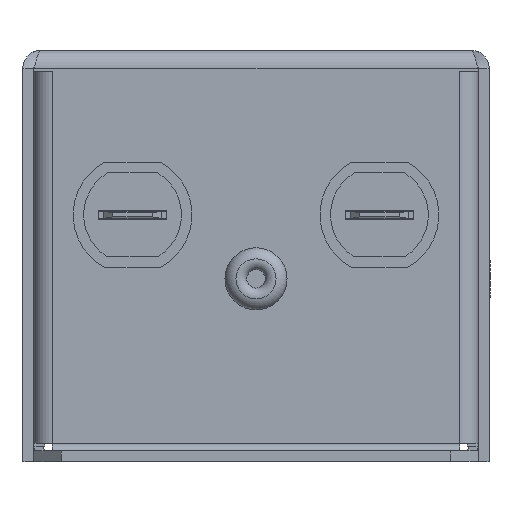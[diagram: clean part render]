
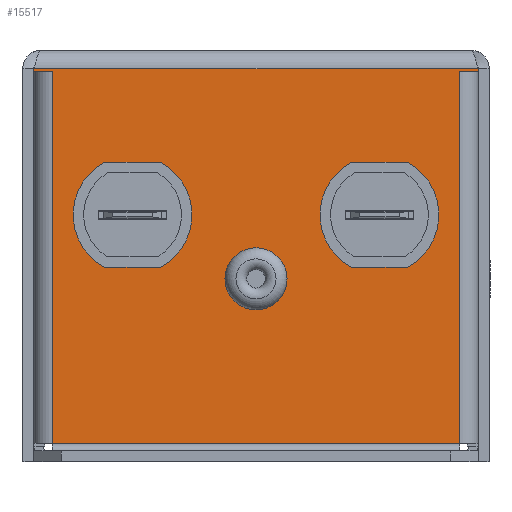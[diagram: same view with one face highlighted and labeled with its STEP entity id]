
A CAD part, left-side view. The second image highlights one B-rep face of the part: STEP entity #15517.
In plain terms, the highlighted planar face has unit normal (-1, 0, 0).
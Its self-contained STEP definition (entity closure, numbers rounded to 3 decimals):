
#1637=FACE_BOUND('',#3113,.T.);
#1638=FACE_BOUND('',#3114,.T.);
#1639=FACE_BOUND('',#3115,.T.);
#2185=FACE_OUTER_BOUND('',#3112,.T.);
#3112=EDGE_LOOP('',(#12085,#12086,#12087,#12088,#12089,#12090,#12091,#12092,
#12093,#12094,#12095,#12096));
#3113=EDGE_LOOP('',(#12097,#12098,#12099,#12100));
#3114=EDGE_LOOP('',(#12101));
#3115=EDGE_LOOP('',(#12102,#12103,#12104,#12105));
#4420=LINE('',#25493,#5658);
#4424=LINE('',#25504,#5662);
#4426=LINE('',#25526,#5664);
#4427=LINE('',#25528,#5665);
#4428=LINE('',#25530,#5666);
#4429=LINE('',#25532,#5667);
#4430=LINE('',#25534,#5668);
#4431=LINE('',#25536,#5669);
#4432=LINE('',#25538,#5670);
#4433=LINE('',#25540,#5671);
#4434=LINE('',#25542,#5672);
#4435=LINE('',#25544,#5673);
#4436=LINE('',#25546,#5674);
#4437=LINE('',#25547,#5675);
#4438=LINE('',#25552,#5676);
#4439=LINE('',#25555,#5677);
#5658=VECTOR('',#19228,10.);
#5662=VECTOR('',#19240,10.);
#5664=VECTOR('',#19278,10.);
#5665=VECTOR('',#19279,10.);
#5666=VECTOR('',#19280,10.);
#5667=VECTOR('',#19281,10.);
#5668=VECTOR('',#19282,10.);
#5669=VECTOR('',#19283,10.);
#5670=VECTOR('',#19284,10.);
#5671=VECTOR('',#19285,10.);
#5672=VECTOR('',#19286,10.);
#5673=VECTOR('',#19287,10.);
#5674=VECTOR('',#19288,10.);
#5675=VECTOR('',#19289,10.);
#5676=VECTOR('',#19292,10.);
#5677=VECTOR('',#19295,10.);
#6596=CIRCLE('',#16688,6.5);
#6598=CIRCLE('',#16692,6.5);
#6608=CIRCLE('',#16713,6.5);
#6609=CIRCLE('',#16714,6.5);
#6610=CIRCLE('',#16715,3.4);
#7483=VERTEX_POINT('',#25483);
#7484=VERTEX_POINT('',#25484);
#7487=VERTEX_POINT('',#25492);
#7489=VERTEX_POINT('',#25498);
#7491=VERTEX_POINT('',#25524);
#7492=VERTEX_POINT('',#25525);
#7493=VERTEX_POINT('',#25527);
#7494=VERTEX_POINT('',#25529);
#7495=VERTEX_POINT('',#25531);
#7496=VERTEX_POINT('',#25533);
#7497=VERTEX_POINT('',#25535);
#7498=VERTEX_POINT('',#25537);
#7499=VERTEX_POINT('',#25539);
#7500=VERTEX_POINT('',#25541);
#7501=VERTEX_POINT('',#25543);
#7502=VERTEX_POINT('',#25545);
#7503=VERTEX_POINT('',#25548);
#7504=VERTEX_POINT('',#25549);
#7505=VERTEX_POINT('',#25551);
#7506=VERTEX_POINT('',#25553);
#7507=VERTEX_POINT('',#25556);
#9178=EDGE_CURVE('',#7483,#7484,#6596,.T.);
#9182=EDGE_CURVE('',#7484,#7487,#4420,.T.);
#9185=EDGE_CURVE('',#7487,#7489,#6598,.T.);
#9188=EDGE_CURVE('',#7489,#7483,#4424,.T.);
#9198=EDGE_CURVE('',#7491,#7492,#4426,.T.);
#9199=EDGE_CURVE('',#7493,#7491,#4427,.T.);
#9200=EDGE_CURVE('',#7493,#7494,#4428,.T.);
#9201=EDGE_CURVE('',#7494,#7495,#4429,.T.);
#9202=EDGE_CURVE('',#7495,#7496,#4430,.T.);
#9203=EDGE_CURVE('',#7496,#7497,#4431,.T.);
#9204=EDGE_CURVE('',#7497,#7498,#4432,.T.);
#9205=EDGE_CURVE('',#7498,#7499,#4433,.T.);
#9206=EDGE_CURVE('',#7500,#7499,#4434,.T.);
#9207=EDGE_CURVE('',#7501,#7500,#4435,.T.);
#9208=EDGE_CURVE('',#7502,#7501,#4436,.T.);
#9209=EDGE_CURVE('',#7492,#7502,#4437,.T.);
#9210=EDGE_CURVE('',#7503,#7504,#6608,.T.);
#9211=EDGE_CURVE('',#7504,#7505,#4438,.T.);
#9212=EDGE_CURVE('',#7505,#7506,#6609,.T.);
#9213=EDGE_CURVE('',#7506,#7503,#4439,.T.);
#9214=EDGE_CURVE('',#7507,#7507,#6610,.T.);
#12085=ORIENTED_EDGE('',*,*,#9198,.F.);
#12086=ORIENTED_EDGE('',*,*,#9199,.F.);
#12087=ORIENTED_EDGE('',*,*,#9200,.T.);
#12088=ORIENTED_EDGE('',*,*,#9201,.T.);
#12089=ORIENTED_EDGE('',*,*,#9202,.T.);
#12090=ORIENTED_EDGE('',*,*,#9203,.T.);
#12091=ORIENTED_EDGE('',*,*,#9204,.T.);
#12092=ORIENTED_EDGE('',*,*,#9205,.T.);
#12093=ORIENTED_EDGE('',*,*,#9206,.F.);
#12094=ORIENTED_EDGE('',*,*,#9207,.F.);
#12095=ORIENTED_EDGE('',*,*,#9208,.F.);
#12096=ORIENTED_EDGE('',*,*,#9209,.F.);
#12097=ORIENTED_EDGE('',*,*,#9210,.T.);
#12098=ORIENTED_EDGE('',*,*,#9211,.T.);
#12099=ORIENTED_EDGE('',*,*,#9212,.T.);
#12100=ORIENTED_EDGE('',*,*,#9213,.T.);
#12101=ORIENTED_EDGE('',*,*,#9214,.T.);
#12102=ORIENTED_EDGE('',*,*,#9178,.T.);
#12103=ORIENTED_EDGE('',*,*,#9182,.T.);
#12104=ORIENTED_EDGE('',*,*,#9185,.T.);
#12105=ORIENTED_EDGE('',*,*,#9188,.T.);
#14926=PLANE('',#16712);
#15517=ADVANCED_FACE('',(#2185,#1637,#1638,#1639),#14926,.F.);
#16688=AXIS2_PLACEMENT_3D('',#25485,#19220,#19221);
#16692=AXIS2_PLACEMENT_3D('',#25499,#19233,#19234);
#16712=AXIS2_PLACEMENT_3D('',#25523,#19276,#19277);
#16713=AXIS2_PLACEMENT_3D('',#25550,#19290,#19291);
#16714=AXIS2_PLACEMENT_3D('',#25554,#19293,#19294);
#16715=AXIS2_PLACEMENT_3D('',#25557,#19296,#19297);
#19220=DIRECTION('center_axis',(1.,0.,0.));
#19221=DIRECTION('ref_axis',(0.,0.466,0.885));
#19228=DIRECTION('',(0.,-1.,0.));
#19233=DIRECTION('center_axis',(1.,0.,0.));
#19234=DIRECTION('ref_axis',(0.,-0.466,-0.885));
#19240=DIRECTION('',(0.,1.,0.));
#19276=DIRECTION('center_axis',(1.,0.,0.));
#19277=DIRECTION('ref_axis',(0.,0.,-1.));
#19278=DIRECTION('',(0.,1.,0.));
#19279=DIRECTION('',(0.,0.,-1.));
#19280=DIRECTION('',(0.,1.,0.));
#19281=DIRECTION('',(0.,0.,-1.));
#19282=DIRECTION('',(0.,-1.,0.));
#19283=DIRECTION('',(0.,0.,-1.));
#19284=DIRECTION('',(0.,1.,0.));
#19285=DIRECTION('',(0.,0.,-1.));
#19286=DIRECTION('',(0.,1.,0.));
#19287=DIRECTION('',(0.,0.,-1.));
#19288=DIRECTION('',(0.,-1.,0.));
#19289=DIRECTION('',(0.,0.,-1.));
#19290=DIRECTION('center_axis',(1.,0.,0.));
#19291=DIRECTION('ref_axis',(0.,0.466,0.885));
#19292=DIRECTION('',(0.,-1.,0.));
#19293=DIRECTION('center_axis',(1.,0.,0.));
#19294=DIRECTION('ref_axis',(0.,-0.466,-0.885));
#19295=DIRECTION('',(0.,1.,0.));
#19296=DIRECTION('center_axis',(1.,0.,0.));
#19297=DIRECTION('ref_axis',(0.,0.,1.));
#25483=CARTESIAN_POINT('',(-99.75,2.281,-22.55));
#25484=CARTESIAN_POINT('',(-99.75,2.281,-11.05));
#25485=CARTESIAN_POINT('Origin',(-99.75,-0.75,-16.8));
#25492=CARTESIAN_POINT('',(-99.75,-3.781,-11.05));
#25493=CARTESIAN_POINT('',(-99.75,-5.234,-11.05));
#25498=CARTESIAN_POINT('',(-99.75,-3.781,-22.55));
#25499=CARTESIAN_POINT('Origin',(-99.75,-0.75,-16.8));
#25504=CARTESIAN_POINT('',(-99.75,-8.266,-22.55));
#25523=CARTESIAN_POINT('Origin',(-99.75,-12.75,-43.8));
#25524=CARTESIAN_POINT('',(-99.75,-11.543,-1.09));
#25525=CARTESIAN_POINT('',(-99.75,-9.533,-1.09));
#25526=CARTESIAN_POINT('',(-99.75,-12.146,-1.09));
#25527=CARTESIAN_POINT('',(-99.75,-11.543,-0.8));
#25528=CARTESIAN_POINT('',(-99.75,-11.543,-22.3));
#25529=CARTESIAN_POINT('',(-99.75,37.043,-0.8));
#25530=CARTESIAN_POINT('',(-99.75,12.75,-0.8));
#25531=CARTESIAN_POINT('',(-99.75,37.043,-1.09));
#25532=CARTESIAN_POINT('',(-99.75,37.043,-22.3));
#25533=CARTESIAN_POINT('',(-99.75,35.033,-1.09));
#25534=CARTESIAN_POINT('',(-99.75,37.646,-1.09));
#25535=CARTESIAN_POINT('',(-99.75,35.033,-1.1));
#25536=CARTESIAN_POINT('',(-99.75,35.033,-22.445));
#25537=CARTESIAN_POINT('',(-99.75,35.043,-1.1));
#25538=CARTESIAN_POINT('',(-99.75,36.641,-1.1));
#25539=CARTESIAN_POINT('',(-99.75,35.043,-41.8));
#25540=CARTESIAN_POINT('',(-99.75,35.043,-42.8));
#25541=CARTESIAN_POINT('',(-99.75,-9.543,-41.8));
#25542=CARTESIAN_POINT('',(-99.75,-12.146,-41.8));
#25543=CARTESIAN_POINT('',(-99.75,-9.543,-1.1));
#25544=CARTESIAN_POINT('',(-99.75,-9.543,-42.8));
#25545=CARTESIAN_POINT('',(-99.75,-9.533,-1.1));
#25546=CARTESIAN_POINT('',(-99.75,-11.141,-1.1));
#25547=CARTESIAN_POINT('',(-99.75,-9.533,-22.445));
#25548=CARTESIAN_POINT('',(-99.75,29.281,-22.55));
#25549=CARTESIAN_POINT('',(-99.75,29.281,-11.05));
#25550=CARTESIAN_POINT('Origin',(-99.75,26.25,-16.8));
#25551=CARTESIAN_POINT('',(-99.75,23.219,-11.05));
#25552=CARTESIAN_POINT('',(-99.75,8.266,-11.05));
#25553=CARTESIAN_POINT('',(-99.75,23.219,-22.55));
#25554=CARTESIAN_POINT('Origin',(-99.75,26.25,-16.8));
#25555=CARTESIAN_POINT('',(-99.75,5.234,-22.55));
#25556=CARTESIAN_POINT('',(-99.75,9.35,-23.8));
#25557=CARTESIAN_POINT('Origin',(-99.75,12.75,-23.8));
